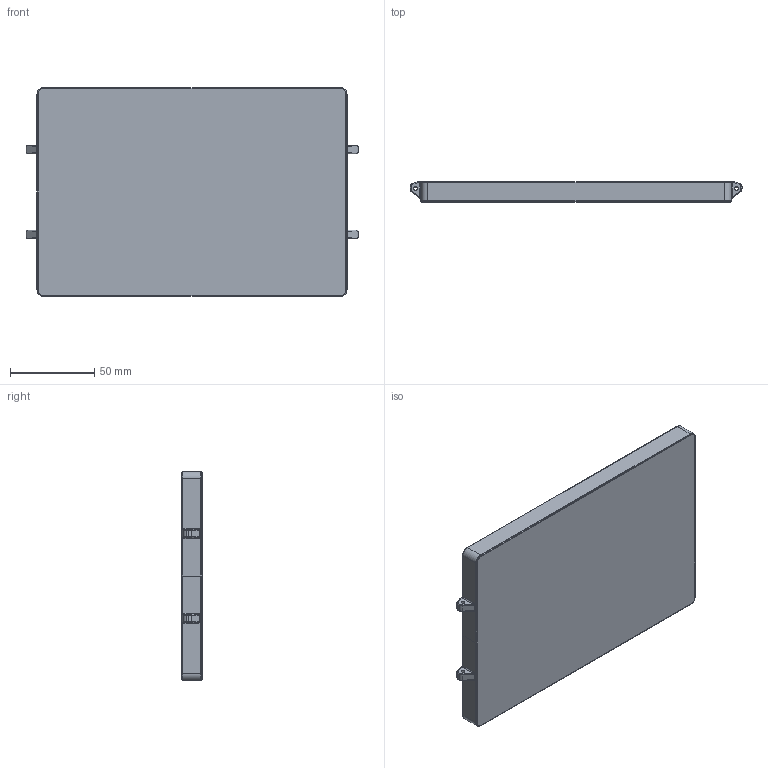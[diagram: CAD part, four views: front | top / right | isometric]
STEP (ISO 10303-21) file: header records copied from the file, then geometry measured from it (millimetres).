
FILE_DESCRIPTION (( 'STEP AP214' ), '1' );
FILE_NAME ('Tiered Storage Box Lid-Tray 180x120 10 Cell.STEP', '2024-06-06T18:24:15', ( '' ), ( '' ), 'SwSTEP 2.0', 'SolidWorks 2022', '' );
FILE_SCHEMA (( 'AUTOMOTIVE_DESIGN' ));
Length unit declared in the file: millimetre
Products named in the file (1): Tiered Storage Box Lid-Tray 180x120 10 Cell
Bounding box: 197 x 12 x 124 mm (x, y, z)
Volume: 67513.9 mm3; surface area: 69539.4 mm2
Topology: 1 solids, 1 shells, 451 faces, 1032 edges, 531 vertices
Faces by surface type: cylinder 208, plane 91, torus 70, bspline 42, sphere 36, cone 4
Entity records: 13123 total; most frequent: CARTESIAN_POINT 3441, DIRECTION 2169, ORIENTED_EDGE 1956, EDGE_CURVE 978, AXIS2_PLACEMENT_3D 867, VERTEX_POINT 531, EDGE_LOOP 461, CIRCLE 457
